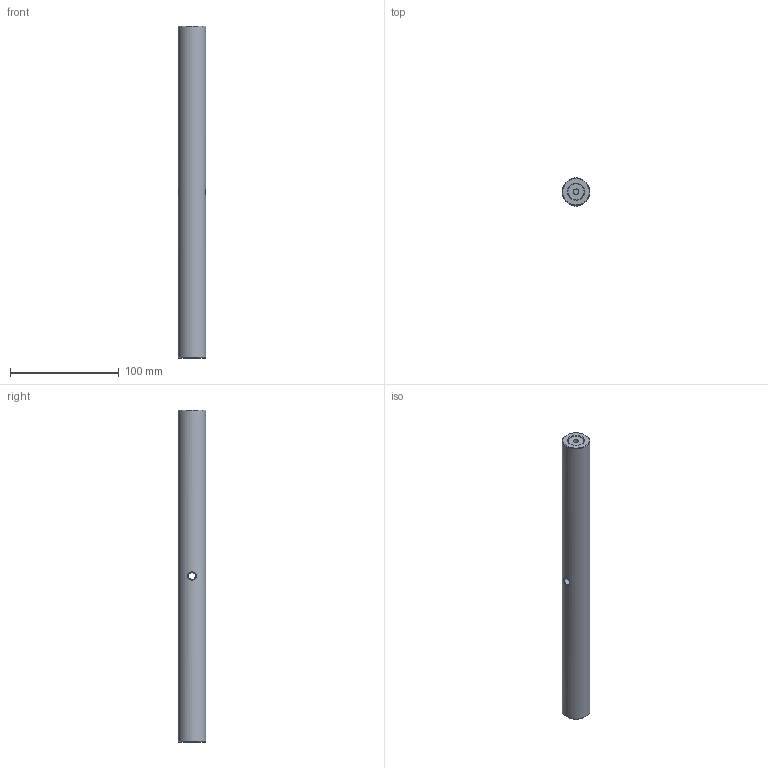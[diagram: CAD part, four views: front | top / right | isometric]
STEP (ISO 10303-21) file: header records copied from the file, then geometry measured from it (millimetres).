
FILE_DESCRIPTION(/* description */ ('Alibre Inc.'),/* implementation_level */ '2;1');
FILE_NAME(/* name */ 'export0',/* time_stamp */ '2014-02-03T22:39:30-05:00',/* author */ (''),/* organization */ (''),/* preprocessor_version */ 'ST-DEVELOPER v14',/* originating_system */ 'Alibre',/* authorisation */ '');
FILE_SCHEMA (('AUTOMOTIVE_DESIGN'));
Length unit declared in the file: centimetre
Bounding box: 25.4 x 25.4 x 304.8 mm (x, y, z)
Volume: 152399.2 mm3; surface area: 26530.2 mm2
Topology: 1 solids, 1 shells, 16 faces, 29 edges, 18 vertices
Faces by surface type: plane 6, cone 4, cylinder 4, bspline 2
Full cylindrical faces by diameter (mm): 4.978 x2, 6.528 x1, 25.4 x1
Entity records: 995 total; most frequent: CARTESIAN_POINT 716, DIRECTION 48, ORIENTED_EDGE 36, EDGE_LOOP 30, FACE_BOUND 30, AXIS2_PLACEMENT_3D 26, EDGE_CURVE 18, VERTEX_POINT 16
